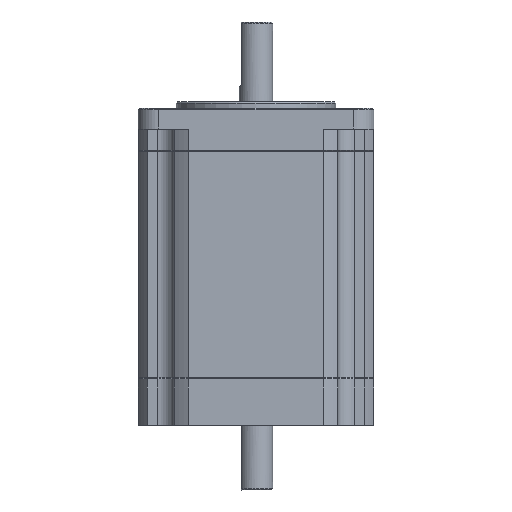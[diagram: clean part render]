
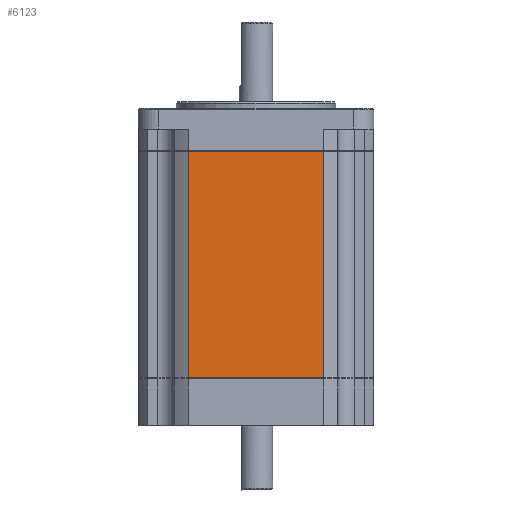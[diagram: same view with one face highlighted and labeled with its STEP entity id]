
A CAD part, front view. The second image highlights one B-rep face of the part: STEP entity #6123.
In plain terms, the highlighted planar face has unit normal (0, -1, 0).
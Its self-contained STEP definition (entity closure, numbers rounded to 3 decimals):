
#24 = FACE_OUTER_BOUND ( 'NONE', #14614, .T. ) ;
#64 = VECTOR ( 'NONE', #18150, 1000. ) ;
#458 = LINE ( 'NONE', #17714, #9317 ) ;
#631 = ORIENTED_EDGE ( 'NONE', *, *, #2775, .T. ) ;
#765 = CARTESIAN_POINT ( 'NONE',  ( -16.156, -28.2, 0. ) ) ;
#2156 = VECTOR ( 'NONE', #16398, 1000. ) ;
#2219 = CARTESIAN_POINT ( 'NONE',  ( -16.156, -28.2, -54.05 ) ) ;
#2556 = AXIS2_PLACEMENT_3D ( 'NONE', #13948, #4349, #8349 ) ;
#2775 = EDGE_CURVE ( 'NONE', #15582, #6443, #458, .T. ) ;
#3307 = CARTESIAN_POINT ( 'NONE',  ( -16.156, -28.2, -54.05 ) ) ;
#3544 = DIRECTION ( 'NONE',  ( -1., 0., 0. ) ) ;
#4349 = DIRECTION ( 'NONE',  ( 0., -1., 0. ) ) ;
#5033 = CARTESIAN_POINT ( 'NONE',  ( 16.156, -28.2, 0. ) ) ;
#5500 = LINE ( 'NONE', #12465, #64 ) ;
#6123 = ADVANCED_FACE ( 'NONE', ( #24 ), #14136, .T. ) ;
#6405 = ORIENTED_EDGE ( 'NONE', *, *, #17023, .F. ) ;
#6443 = VERTEX_POINT ( 'NONE', #765 ) ;
#6663 = CARTESIAN_POINT ( 'NONE',  ( 16.156, -28.2, -54.05 ) ) ;
#7155 = LINE ( 'NONE', #8645, #11044 ) ;
#8349 = DIRECTION ( 'NONE',  ( 0., 0., -1. ) ) ;
#8645 = CARTESIAN_POINT ( 'NONE',  ( 0., -28.2, -54.05 ) ) ;
#9273 = ORIENTED_EDGE ( 'NONE', *, *, #16826, .T. ) ;
#9317 = VECTOR ( 'NONE', #3544, 1000. ) ;
#10620 = LINE ( 'NONE', #2219, #2156 ) ;
#11044 = VECTOR ( 'NONE', #17034, 1000. ) ;
#11900 = EDGE_CURVE ( 'NONE', #16466, #13809, #7155, .T. ) ;
#12078 = ORIENTED_EDGE ( 'NONE', *, *, #11900, .T. ) ;
#12465 = CARTESIAN_POINT ( 'NONE',  ( 16.156, -28.2, -54.05 ) ) ;
#13809 = VERTEX_POINT ( 'NONE', #6663 ) ;
#13948 = CARTESIAN_POINT ( 'NONE',  ( -16.156, -28.2, -54.05 ) ) ;
#14136 = PLANE ( 'NONE',  #2556 ) ;
#14614 = EDGE_LOOP ( 'NONE', ( #12078, #6405, #631, #9273 ) ) ;
#15582 = VERTEX_POINT ( 'NONE', #5033 ) ;
#16398 = DIRECTION ( 'NONE',  ( 0., 0., -1. ) ) ;
#16466 = VERTEX_POINT ( 'NONE', #3307 ) ;
#16826 = EDGE_CURVE ( 'NONE', #6443, #16466, #10620, .T. ) ;
#17023 = EDGE_CURVE ( 'NONE', #15582, #13809, #5500, .T. ) ;
#17034 = DIRECTION ( 'NONE',  ( 1., 0., 0. ) ) ;
#17714 = CARTESIAN_POINT ( 'NONE',  ( -16.156, -28.2, 0. ) ) ;
#18150 = DIRECTION ( 'NONE',  ( 0., 0., -1. ) ) ;
